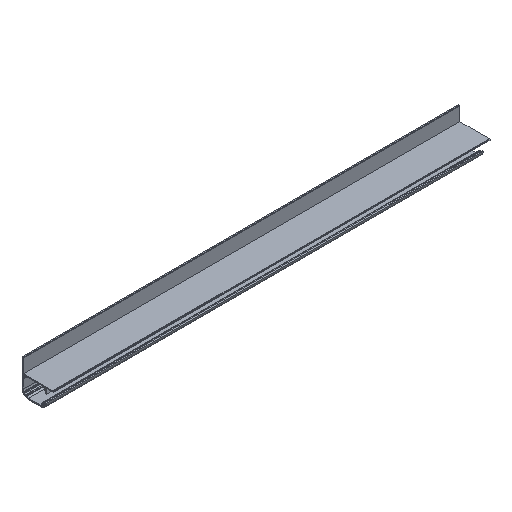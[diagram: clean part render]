
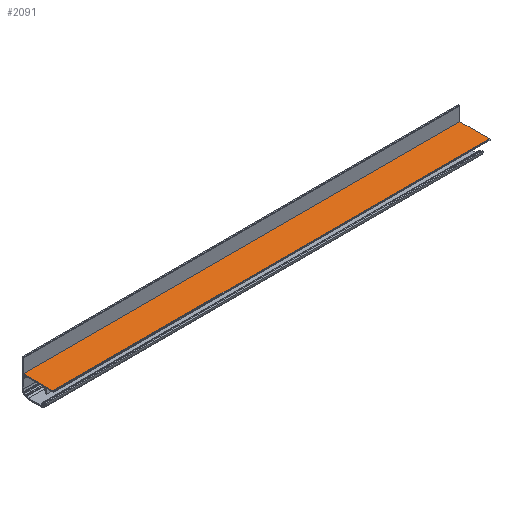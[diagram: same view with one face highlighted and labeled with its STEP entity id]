
A CAD part, isometric view. The second image highlights one B-rep face of the part: STEP entity #2091.
In plain terms, the highlighted planar face has unit normal (0, 0, 1).
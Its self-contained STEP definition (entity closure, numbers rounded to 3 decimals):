
#18 = CARTESIAN_POINT ( 'NONE',  ( 1000., -67.5, 0. ) ) ;
#84 = DIRECTION ( 'NONE',  ( 0., 0., -1. ) ) ;
#106 = VERTEX_POINT ( 'NONE', #1852 ) ;
#114 = CARTESIAN_POINT ( 'NONE',  ( 1000., 0., 0. ) ) ;
#124 = LINE ( 'NONE', #1423, #816 ) ;
#315 = VERTEX_POINT ( 'NONE', #114 ) ;
#537 = ORIENTED_EDGE ( 'NONE', *, *, #971, .T. ) ;
#562 = VECTOR ( 'NONE', #2003, 1000. ) ;
#578 = CARTESIAN_POINT ( 'NONE',  ( 1000., -67.5, 0. ) ) ;
#770 = ORIENTED_EDGE ( 'NONE', *, *, #1473, .F. ) ;
#816 = VECTOR ( 'NONE', #1273, 1000. ) ;
#817 = CARTESIAN_POINT ( 'NONE',  ( 1000., 0., 0. ) ) ;
#839 = VERTEX_POINT ( 'NONE', #1104 ) ;
#854 = ORIENTED_EDGE ( 'NONE', *, *, #1134, .F. ) ;
#855 = VECTOR ( 'NONE', #1394, 1000. ) ;
#930 = CARTESIAN_POINT ( 'NONE',  ( 0., -67.5, 0. ) ) ;
#971 = EDGE_CURVE ( 'NONE', #839, #106, #1556, .T. ) ;
#1104 = CARTESIAN_POINT ( 'NONE',  ( 0., 0., 0. ) ) ;
#1127 = AXIS2_PLACEMENT_3D ( 'NONE', #1885, #84, #1742 ) ;
#1134 = EDGE_CURVE ( 'NONE', #1151, #106, #124, .T. ) ;
#1151 = VERTEX_POINT ( 'NONE', #578 ) ;
#1216 = FACE_OUTER_BOUND ( 'NONE', #2075, .T. ) ;
#1273 = DIRECTION ( 'NONE',  ( -1., 0., 0. ) ) ;
#1323 = DIRECTION ( 'NONE',  ( 0., -1., 0. ) ) ;
#1357 = LINE ( 'NONE', #817, #562 ) ;
#1394 = DIRECTION ( 'NONE',  ( 0., -1., 0. ) ) ;
#1423 = CARTESIAN_POINT ( 'NONE',  ( 1000., -67.5, 0. ) ) ;
#1473 = EDGE_CURVE ( 'NONE', #315, #1151, #1474, .T. ) ;
#1474 = LINE ( 'NONE', #18, #1483 ) ;
#1483 = VECTOR ( 'NONE', #1323, 1000. ) ;
#1556 = LINE ( 'NONE', #930, #855 ) ;
#1652 = ORIENTED_EDGE ( 'NONE', *, *, #1655, .T. ) ;
#1655 = EDGE_CURVE ( 'NONE', #315, #839, #1357, .T. ) ;
#1742 = DIRECTION ( 'NONE',  ( 0., 1., 0. ) ) ;
#1852 = CARTESIAN_POINT ( 'NONE',  ( 0., -67.5, 0. ) ) ;
#1873 = PLANE ( 'NONE',  #1127 ) ;
#1885 = CARTESIAN_POINT ( 'NONE',  ( 1000., -67.5, 0. ) ) ;
#2003 = DIRECTION ( 'NONE',  ( -1., 0., 0. ) ) ;
#2075 = EDGE_LOOP ( 'NONE', ( #537, #854, #770, #1652 ) ) ;
#2091 = ADVANCED_FACE ( 'NONE', ( #1216 ), #1873, .F. ) ;
